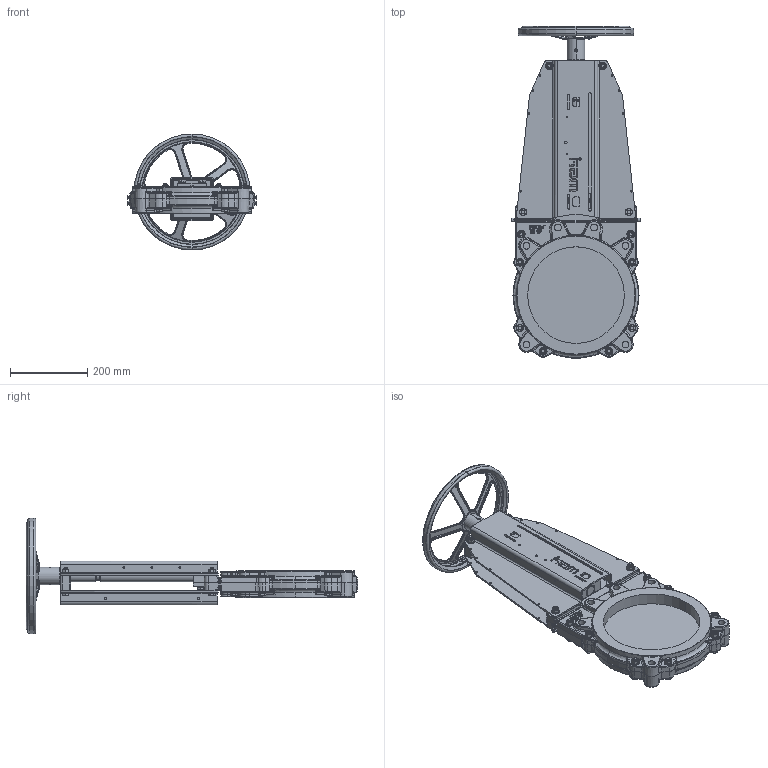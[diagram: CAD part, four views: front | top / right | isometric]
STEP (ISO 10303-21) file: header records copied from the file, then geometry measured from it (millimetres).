
FILE_DESCRIPTION (( 'STEP AP214' ), '1' );
FILE_NAME ('VSA DN 0250.STEP', '2015-09-23T10:56:19', ( 'admin' ), ( 'Hewlett-Packard Company' ), 'SwSTEP 2.0', 'SolidWorks 2013', '' );
FILE_SCHEMA (( 'AUTOMOTIVE_DESIGN' ));
Length unit declared in the file: millimetre
Products named in the file (1): VSA DN 0250
Bounding box: 332 x 858.57 x 300 mm (x, y, z)
Volume: 6002014 mm3; surface area: 1228967 mm2
Topology: 64 solids, 65 shells, 2945 faces, 7063 edges, 4196 vertices
Faces by surface type: plane 953, cylinder 815, cone 490, bspline 481, torus 190, sphere 16
Entity records: 141384 total; most frequent: CARTESIAN_POINT 43486, ORIENTED_EDGE 13886, DIRECTION 12960, EDGE_CURVE 6943, AXIS2_PLACEMENT_3D 5172, VERTEX_POINT 4196, EDGE_LOOP 3261, UNCERTAINTY_MEASURE_WITH_UNIT 3011
